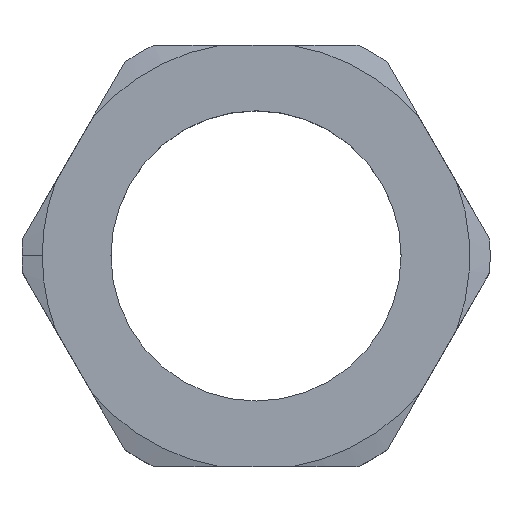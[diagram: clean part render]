
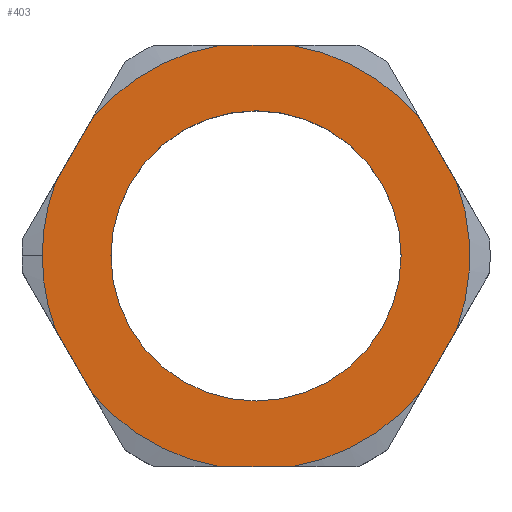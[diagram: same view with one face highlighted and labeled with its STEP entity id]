
A CAD part, top view. The second image highlights one B-rep face of the part: STEP entity #403.
In plain terms, the highlighted planar face has unit normal (0, 0, 1).
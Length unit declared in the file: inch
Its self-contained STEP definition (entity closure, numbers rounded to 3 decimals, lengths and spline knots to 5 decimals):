
#20 = VERTEX_POINT ( 'NONE', #642 ) ;
#23 = VERTEX_POINT ( 'NONE', #670 ) ;
#24 = VERTEX_POINT ( 'NONE', #659 ) ;
#26 = VERTEX_POINT ( 'NONE', #646 ) ;
#29 = VERTEX_POINT ( 'NONE', #648 ) ;
#47 = EDGE_LOOP ( 'NONE', ( #250, #251, #255, #249, #248, #247, #245, #244, #246, #243, #242, #241, #240 ) ) ;
#49 = EDGE_LOOP ( 'NONE', ( #253, #252 ) ) ;
#67 = VERTEX_POINT ( 'NONE', #672 ) ;
#69 = VERTEX_POINT ( 'NONE', #653 ) ;
#72 = VERTEX_POINT ( 'NONE', #656 ) ;
#75 = VERTEX_POINT ( 'NONE', #666 ) ;
#76 = VERTEX_POINT ( 'NONE', #662 ) ;
#78 = VERTEX_POINT ( 'NONE', #664 ) ;
#80 = VERTEX_POINT ( 'NONE', #661 ) ;
#81 = VERTEX_POINT ( 'NONE', #663 ) ;
#85 = VERTEX_POINT ( 'NONE', #634 ) ;
#90 = VERTEX_POINT ( 'NONE', #639 ) ;
#128 = LINE ( 'NONE', #870, #361 ) ;
#146 = LINE ( 'NONE', #1011, #1126 ) ;
#158 = LINE ( 'NONE', #1077, #183 ) ;
#172 = LINE ( 'NONE', #935, #1160 ) ;
#183 = VECTOR ( 'NONE', #1078, 39.37008 ) ;
#213 = FACE_OUTER_BOUND ( 'NONE', #47, .T. ) ;
#214 = FACE_BOUND ( 'NONE', #49, .T. ) ;
#216 = LINE ( 'NONE', #713, #1224 ) ;
#240 = ORIENTED_EDGE ( 'NONE', *, *, #409, .T. ) ;
#241 = ORIENTED_EDGE ( 'NONE', *, *, #396, .T. ) ;
#242 = ORIENTED_EDGE ( 'NONE', *, *, #449, .T. ) ;
#243 = ORIENTED_EDGE ( 'NONE', *, *, #445, .T. ) ;
#244 = ORIENTED_EDGE ( 'NONE', *, *, #426, .T. ) ;
#245 = ORIENTED_EDGE ( 'NONE', *, *, #410, .T. ) ;
#246 = ORIENTED_EDGE ( 'NONE', *, *, #378, .T. ) ;
#247 = ORIENTED_EDGE ( 'NONE', *, *, #437, .T. ) ;
#248 = ORIENTED_EDGE ( 'NONE', *, *, #386, .T. ) ;
#249 = ORIENTED_EDGE ( 'NONE', *, *, #420, .T. ) ;
#250 = ORIENTED_EDGE ( 'NONE', *, *, #461, .T. ) ;
#251 = ORIENTED_EDGE ( 'NONE', *, *, #412, .T. ) ;
#252 = ORIENTED_EDGE ( 'NONE', *, *, #458, .F. ) ;
#253 = ORIENTED_EDGE ( 'NONE', *, *, #455, .F. ) ;
#255 = ORIENTED_EDGE ( 'NONE', *, *, #482, .T. ) ;
#334 = AXIS2_PLACEMENT_3D ( 'NONE', #991, #873, #874 ) ;
#336 = AXIS2_PLACEMENT_3D ( 'NONE', #879, #881, #880 ) ;
#357 = CIRCLE ( 'NONE', #334, 0.53937 ) ;
#361 = VECTOR ( 'NONE', #869, 39.37008 ) ;
#366 = CIRCLE ( 'NONE', #336, 0.53937 ) ;
#378 = EDGE_CURVE ( 'NONE', #72, #69, #1257, .T. ) ;
#386 = EDGE_CURVE ( 'NONE', #29, #23, #782, .T. ) ;
#396 = EDGE_CURVE ( 'NONE', #20, #26, #216, .T. ) ;
#403 = ADVANCED_FACE ( 'NONE', ( #214, #213 ), #556, .T. ) ;
#409 = EDGE_CURVE ( 'NONE', #26, #81, #1167, .T. ) ;
#410 = EDGE_CURVE ( 'NONE', #85, #80, #1168, .T. ) ;
#412 = EDGE_CURVE ( 'NONE', #90, #78, #1185, .T. ) ;
#420 = EDGE_CURVE ( 'NONE', #24, #29, #1180, .T. ) ;
#426 = EDGE_CURVE ( 'NONE', #80, #72, #172, .T. ) ;
#437 = EDGE_CURVE ( 'NONE', #23, #85, #357, .T. ) ;
#445 = EDGE_CURVE ( 'NONE', #69, #67, #128, .T. ) ;
#449 = EDGE_CURVE ( 'NONE', #67, #20, #366, .T. ) ;
#455 = EDGE_CURVE ( 'NONE', #76, #75, #1146, .T. ) ;
#458 = EDGE_CURVE ( 'NONE', #75, #76, #1139, .T. ) ;
#461 = EDGE_CURVE ( 'NONE', #81, #90, #146, .T. ) ;
#482 = EDGE_CURVE ( 'NONE', #78, #24, #158, .T. ) ;
#528 = DIRECTION ( 'NONE',  ( 0., 0., 1. ) ) ;
#552 = DIRECTION ( 'NONE',  ( -0.5, -0.866, 0. ) ) ;
#556 = PLANE ( 'NONE',  #1213 ) ;
#565 = CARTESIAN_POINT ( 'NONE',  ( -1.00959, -0.68566, 0.23622 ) ) ;
#582 = CARTESIAN_POINT ( 'NONE',  ( 0., -1.26855, 0.23622 ) ) ;
#634 = CARTESIAN_POINT ( 'NONE',  ( -0.53937, 0., 0.23622 ) ) ;
#639 = CARTESIAN_POINT ( 'NONE',  ( 0.41438, 0.34527, 0.23622 ) ) ;
#642 = CARTESIAN_POINT ( 'NONE',  ( 0.41438, -0.34527, 0.23622 ) ) ;
#646 = CARTESIAN_POINT ( 'NONE',  ( 0.5062, -0.18622, 0.23622 ) ) ;
#648 = CARTESIAN_POINT ( 'NONE',  ( -0.41438, 0.34527, 0.23622 ) ) ;
#653 = CARTESIAN_POINT ( 'NONE',  ( -0.09183, -0.5315, 0.23622 ) ) ;
#656 = CARTESIAN_POINT ( 'NONE',  ( -0.41438, -0.34527, 0.23622 ) ) ;
#659 = CARTESIAN_POINT ( 'NONE',  ( -0.09183, 0.5315, 0.23622 ) ) ;
#661 = CARTESIAN_POINT ( 'NONE',  ( -0.5062, -0.18622, 0.23622 ) ) ;
#662 = CARTESIAN_POINT ( 'NONE',  ( -0.36614, 0., 0.23622 ) ) ;
#663 = CARTESIAN_POINT ( 'NONE',  ( 0.5062, 0.18622, 0.23622 ) ) ;
#664 = CARTESIAN_POINT ( 'NONE',  ( 0.09183, 0.5315, 0.23622 ) ) ;
#666 = CARTESIAN_POINT ( 'NONE',  ( 0.36614, 0., 0.23622 ) ) ;
#670 = CARTESIAN_POINT ( 'NONE',  ( -0.5062, 0.18622, 0.23622 ) ) ;
#672 = CARTESIAN_POINT ( 'NONE',  ( 0.09183, -0.5315, 0.23622 ) ) ;
#675 = DIRECTION ( 'NONE',  ( 1., 0., 0. ) ) ;
#713 = CARTESIAN_POINT ( 'NONE',  ( -0.08901, -1.21716, 0.23622 ) ) ;
#717 = DIRECTION ( 'NONE',  ( 1., 0., 0. ) ) ;
#719 = CARTESIAN_POINT ( 'NONE',  ( 0., 0., 0.23622 ) ) ;
#724 = DIRECTION ( 'NONE',  ( 0., 0., 1. ) ) ;
#725 = DIRECTION ( 'NONE',  ( 0.5, 0.866, 0. ) ) ;
#782 = LINE ( 'NONE', #565, #1241 ) ;
#795 = CARTESIAN_POINT ( 'NONE',  ( 0., 0., 0.23622 ) ) ;
#798 = DIRECTION ( 'NONE',  ( 1., 0., 0. ) ) ;
#809 = CARTESIAN_POINT ( 'NONE',  ( 0., 0., 0.23622 ) ) ;
#810 = DIRECTION ( 'NONE',  ( 1., 0., 0. ) ) ;
#812 = DIRECTION ( 'NONE',  ( 0., 0., 1. ) ) ;
#816 = DIRECTION ( 'NONE',  ( 0., 0., 1. ) ) ;
#822 = DIRECTION ( 'NONE',  ( -0.5, 0.866, 0. ) ) ;
#847 = CARTESIAN_POINT ( 'NONE',  ( 0., 0., 0.23622 ) ) ;
#848 = DIRECTION ( 'NONE',  ( 0., 0., 1. ) ) ;
#849 = DIRECTION ( 'NONE',  ( 1., 0., 0. ) ) ;
#869 = DIRECTION ( 'NONE',  ( 1., 0., 0. ) ) ;
#870 = CARTESIAN_POINT ( 'NONE',  ( 0., -0.5315, 0.23622 ) ) ;
#873 = DIRECTION ( 'NONE',  ( 0., 0., 1. ) ) ;
#874 = DIRECTION ( 'NONE',  ( 1., 0., 0. ) ) ;
#879 = CARTESIAN_POINT ( 'NONE',  ( 0., 0., 0.23622 ) ) ;
#880 = DIRECTION ( 'NONE',  ( 1., 0., 0. ) ) ;
#881 = DIRECTION ( 'NONE',  ( 0., 0., 1. ) ) ;
#927 = CARTESIAN_POINT ( 'NONE',  ( 0., 0., 0.23622 ) ) ;
#935 = CARTESIAN_POINT ( 'NONE',  ( 0.08901, -1.21716, 0.23622 ) ) ;
#936 = DIRECTION ( 'NONE',  ( 0., 0., 1. ) ) ;
#937 = DIRECTION ( 'NONE',  ( 1., 0., 0. ) ) ;
#938 = CARTESIAN_POINT ( 'NONE',  ( 0., 0., 0.23622 ) ) ;
#943 = DIRECTION ( 'NONE',  ( 0.5, -0.866, 0. ) ) ;
#947 = DIRECTION ( 'NONE',  ( 0., 0., 1. ) ) ;
#948 = DIRECTION ( 'NONE',  ( 1., 0., 0. ) ) ;
#969 = CARTESIAN_POINT ( 'NONE',  ( 0., 0., 0.23622 ) ) ;
#970 = DIRECTION ( 'NONE',  ( 0., 0., 1. ) ) ;
#971 = DIRECTION ( 'NONE',  ( 1., 0., 0. ) ) ;
#991 = CARTESIAN_POINT ( 'NONE',  ( 0., 0., 0.23622 ) ) ;
#1011 = CARTESIAN_POINT ( 'NONE',  ( 1.00959, -0.68566, 0.23622 ) ) ;
#1077 = CARTESIAN_POINT ( 'NONE',  ( 0., 0.5315, 0.23622 ) ) ;
#1078 = DIRECTION ( 'NONE',  ( -1., 0., 0. ) ) ;
#1126 = VECTOR ( 'NONE', #822, 39.37008 ) ;
#1135 = AXIS2_PLACEMENT_3D ( 'NONE', #809, #816, #798 ) ;
#1139 = CIRCLE ( 'NONE', #1135, 0.36614 ) ;
#1140 = AXIS2_PLACEMENT_3D ( 'NONE', #795, #812, #810 ) ;
#1146 = CIRCLE ( 'NONE', #1140, 0.36614 ) ;
#1160 = VECTOR ( 'NONE', #943, 39.37008 ) ;
#1164 = AXIS2_PLACEMENT_3D ( 'NONE', #938, #947, #948 ) ;
#1167 = CIRCLE ( 'NONE', #1189, 0.53937 ) ;
#1168 = CIRCLE ( 'NONE', #1164, 0.53937 ) ;
#1180 = CIRCLE ( 'NONE', #1193, 0.53937 ) ;
#1185 = CIRCLE ( 'NONE', #1190, 0.53937 ) ;
#1189 = AXIS2_PLACEMENT_3D ( 'NONE', #927, #936, #937 ) ;
#1190 = AXIS2_PLACEMENT_3D ( 'NONE', #969, #970, #971 ) ;
#1193 = AXIS2_PLACEMENT_3D ( 'NONE', #847, #848, #849 ) ;
#1213 = AXIS2_PLACEMENT_3D ( 'NONE', #582, #528, #675 ) ;
#1224 = VECTOR ( 'NONE', #725, 39.37008 ) ;
#1226 = AXIS2_PLACEMENT_3D ( 'NONE', #719, #724, #717 ) ;
#1241 = VECTOR ( 'NONE', #552, 39.37008 ) ;
#1257 = CIRCLE ( 'NONE', #1226, 0.53937 ) ;
